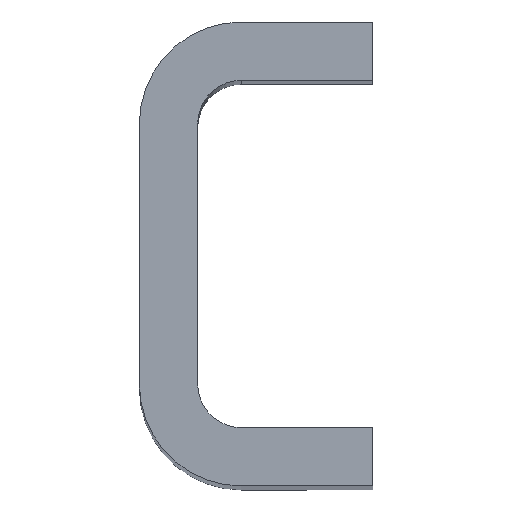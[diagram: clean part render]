
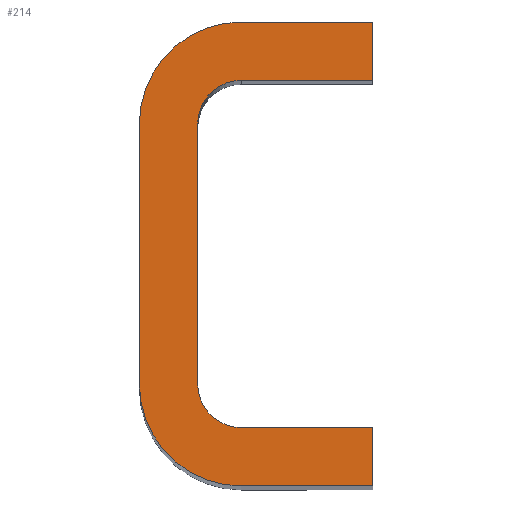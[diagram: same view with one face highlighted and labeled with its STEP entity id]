
A CAD part, top view. The second image highlights one B-rep face of the part: STEP entity #214.
In plain terms, the highlighted planar face has unit normal (0, 0, 1).
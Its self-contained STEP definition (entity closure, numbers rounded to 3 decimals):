
#17 = EDGE_CURVE ( 'NONE', #96, #68, #816, .T. ) ;
#19 = VERTEX_POINT ( 'NONE', #216 ) ;
#21 = AXIS2_PLACEMENT_3D ( 'NONE', #54, #711, #119 ) ;
#24 = EDGE_CURVE ( 'NONE', #464, #96, #480, .T. ) ;
#25 = CARTESIAN_POINT ( 'NONE',  ( 7., 8.9, 0. ) ) ;
#29 = DIRECTION ( 'NONE',  ( 0., -1., 0. ) ) ;
#40 = CARTESIAN_POINT ( 'NONE',  ( 7., 8.9, 0. ) ) ;
#54 = CARTESIAN_POINT ( 'NONE',  ( 7., -8.9, 0. ) ) ;
#57 = CARTESIAN_POINT ( 'NONE',  ( 7., 11.9, 0. ) ) ;
#64 = EDGE_CURVE ( 'NONE', #794, #126, #167, .T. ) ;
#68 = VERTEX_POINT ( 'NONE', #848 ) ;
#70 = LINE ( 'NONE', #604, #486 ) ;
#71 = ORIENTED_EDGE ( 'NONE', *, *, #223, .T. ) ;
#75 = EDGE_CURVE ( 'NONE', #126, #729, #134, .T. ) ;
#83 = PLANE ( 'NONE',  #614 ) ;
#85 = DIRECTION ( 'NONE',  ( -1., 0., 0. ) ) ;
#90 = AXIS2_PLACEMENT_3D ( 'NONE', #187, #378, #651 ) ;
#92 = DIRECTION ( 'NONE',  ( 0., 1., 0. ) ) ;
#93 = DIRECTION ( 'NONE',  ( 1., 0., 0. ) ) ;
#96 = VERTEX_POINT ( 'NONE', #776 ) ;
#97 = LINE ( 'NONE', #814, #769 ) ;
#116 = CARTESIAN_POINT ( 'NONE',  ( 16., 11.9, 0. ) ) ;
#119 = DIRECTION ( 'NONE',  ( -1., 0., 0. ) ) ;
#126 = VERTEX_POINT ( 'NONE', #447 ) ;
#132 = EDGE_CURVE ( 'NONE', #801, #794, #772, .T. ) ;
#134 = CIRCLE ( 'NONE', #90, 3. ) ;
#140 = EDGE_CURVE ( 'NONE', #19, #452, #653, .T. ) ;
#167 = LINE ( 'NONE', #433, #469 ) ;
#172 = VECTOR ( 'NONE', #29, 1000. ) ;
#178 = DIRECTION ( 'NONE',  ( 1., 0., 0. ) ) ;
#187 = CARTESIAN_POINT ( 'NONE',  ( 7., 8.9, 0. ) ) ;
#198 = DIRECTION ( 'NONE',  ( 0., 1., 0. ) ) ;
#200 = EDGE_CURVE ( 'NONE', #592, #801, #97, .T. ) ;
#202 = ORIENTED_EDGE ( 'NONE', *, *, #132, .T. ) ;
#214 = ADVANCED_FACE ( 'NONE', ( #620 ), #83, .T. ) ;
#216 = CARTESIAN_POINT ( 'NONE',  ( 0., -8.9, 0. ) ) ;
#222 = VERTEX_POINT ( 'NONE', #759 ) ;
#223 = EDGE_CURVE ( 'NONE', #696, #19, #748, .T. ) ;
#241 = DIRECTION ( 'NONE',  ( 0., 0., 1. ) ) ;
#244 = AXIS2_PLACEMENT_3D ( 'NONE', #384, #512, #579 ) ;
#265 = ORIENTED_EDGE ( 'NONE', *, *, #17, .T. ) ;
#267 = ORIENTED_EDGE ( 'NONE', *, *, #852, .T. ) ;
#274 = VECTOR ( 'NONE', #198, 1000. ) ;
#275 = ORIENTED_EDGE ( 'NONE', *, *, #140, .T. ) ;
#289 = CARTESIAN_POINT ( 'NONE',  ( 0., 8.9, 0. ) ) ;
#304 = ORIENTED_EDGE ( 'NONE', *, *, #697, .T. ) ;
#329 = LINE ( 'NONE', #795, #274 ) ;
#343 = CARTESIAN_POINT ( 'NONE',  ( 0., 8.9, 0. ) ) ;
#349 = DIRECTION ( 'NONE',  ( 0., 0., 1. ) ) ;
#378 = DIRECTION ( 'NONE',  ( 0., 0., -1. ) ) ;
#382 = LINE ( 'NONE', #57, #743 ) ;
#384 = CARTESIAN_POINT ( 'NONE',  ( 7., -8.9, 0. ) ) ;
#388 = EDGE_CURVE ( 'NONE', #68, #696, #633, .T. ) ;
#391 = CARTESIAN_POINT ( 'NONE',  ( 4., -8.9, 0. ) ) ;
#394 = CARTESIAN_POINT ( 'NONE',  ( 16., -11.9, 0. ) ) ;
#412 = AXIS2_PLACEMENT_3D ( 'NONE', #40, #241, #178 ) ;
#420 = DIRECTION ( 'NONE',  ( -1., 0., 0. ) ) ;
#430 = CARTESIAN_POINT ( 'NONE',  ( 7., -15.9, 0. ) ) ;
#432 = ORIENTED_EDGE ( 'NONE', *, *, #200, .T. ) ;
#433 = CARTESIAN_POINT ( 'NONE',  ( 4., -8.9, 0. ) ) ;
#447 = CARTESIAN_POINT ( 'NONE',  ( 4., 8.9, 0. ) ) ;
#452 = VERTEX_POINT ( 'NONE', #430 ) ;
#464 = VERTEX_POINT ( 'NONE', #116 ) ;
#469 = VECTOR ( 'NONE', #718, 1000. ) ;
#480 = LINE ( 'NONE', #689, #688 ) ;
#486 = VECTOR ( 'NONE', #678, 1000. ) ;
#512 = DIRECTION ( 'NONE',  ( 0., 0., 1. ) ) ;
#535 = VECTOR ( 'NONE', #420, 1000. ) ;
#579 = DIRECTION ( 'NONE',  ( 1., 0., 0. ) ) ;
#585 = ORIENTED_EDGE ( 'NONE', *, *, #665, .T. ) ;
#590 = ORIENTED_EDGE ( 'NONE', *, *, #388, .T. ) ;
#592 = VERTEX_POINT ( 'NONE', #394 ) ;
#602 = ORIENTED_EDGE ( 'NONE', *, *, #75, .T. ) ;
#604 = CARTESIAN_POINT ( 'NONE',  ( 7., -15.9, 0. ) ) ;
#614 = AXIS2_PLACEMENT_3D ( 'NONE', #25, #349, #93 ) ;
#619 = EDGE_LOOP ( 'NONE', ( #267, #792, #265, #590, #71, #275, #304, #585, #432, #202, #698, #602 ) ) ;
#620 = FACE_OUTER_BOUND ( 'NONE', #619, .T. ) ;
#627 = CARTESIAN_POINT ( 'NONE',  ( 16., 15.9, 0. ) ) ;
#633 = CIRCLE ( 'NONE', #412, 7. ) ;
#651 = DIRECTION ( 'NONE',  ( -1., 0., 0. ) ) ;
#653 = CIRCLE ( 'NONE', #244, 7. ) ;
#658 = DIRECTION ( 'NONE',  ( 1., 0., 0. ) ) ;
#665 = EDGE_CURVE ( 'NONE', #222, #592, #329, .T. ) ;
#678 = DIRECTION ( 'NONE',  ( 1., 0., 0. ) ) ;
#688 = VECTOR ( 'NONE', #92, 1000. ) ;
#689 = CARTESIAN_POINT ( 'NONE',  ( 16., 11.9, 0. ) ) ;
#696 = VERTEX_POINT ( 'NONE', #343 ) ;
#697 = EDGE_CURVE ( 'NONE', #452, #222, #70, .T. ) ;
#698 = ORIENTED_EDGE ( 'NONE', *, *, #64, .T. ) ;
#711 = DIRECTION ( 'NONE',  ( 0., 0., -1. ) ) ;
#718 = DIRECTION ( 'NONE',  ( 0., 1., 0. ) ) ;
#729 = VERTEX_POINT ( 'NONE', #807 ) ;
#743 = VECTOR ( 'NONE', #658, 1000. ) ;
#748 = LINE ( 'NONE', #289, #172 ) ;
#759 = CARTESIAN_POINT ( 'NONE',  ( 16., -15.9, 0. ) ) ;
#769 = VECTOR ( 'NONE', #85, 1000. ) ;
#772 = CIRCLE ( 'NONE', #21, 3. ) ;
#776 = CARTESIAN_POINT ( 'NONE',  ( 16., 15.9, 0. ) ) ;
#792 = ORIENTED_EDGE ( 'NONE', *, *, #24, .T. ) ;
#794 = VERTEX_POINT ( 'NONE', #391 ) ;
#795 = CARTESIAN_POINT ( 'NONE',  ( 16., -15.9, 0. ) ) ;
#801 = VERTEX_POINT ( 'NONE', #856 ) ;
#807 = CARTESIAN_POINT ( 'NONE',  ( 7., 11.9, 0. ) ) ;
#814 = CARTESIAN_POINT ( 'NONE',  ( 16., -11.9, 0. ) ) ;
#816 = LINE ( 'NONE', #627, #535 ) ;
#848 = CARTESIAN_POINT ( 'NONE',  ( 7., 15.9, 0. ) ) ;
#852 = EDGE_CURVE ( 'NONE', #729, #464, #382, .T. ) ;
#856 = CARTESIAN_POINT ( 'NONE',  ( 7., -11.9, 0. ) ) ;
